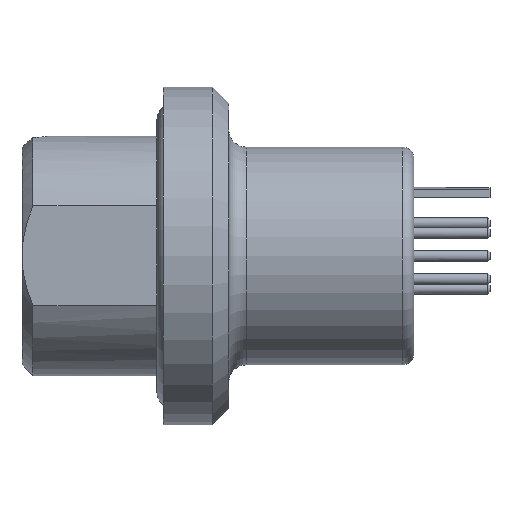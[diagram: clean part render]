
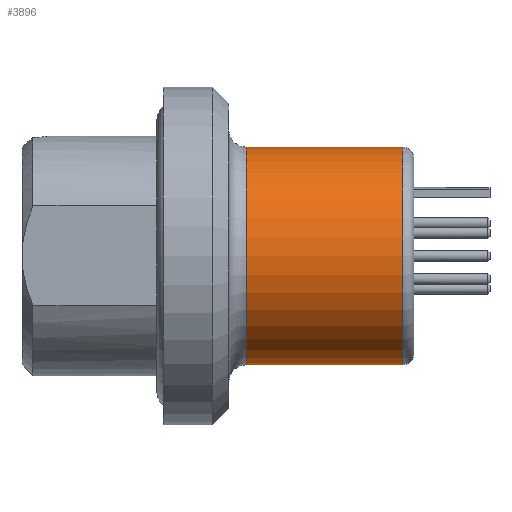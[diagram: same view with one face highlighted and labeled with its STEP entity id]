
A CAD part, top view. The second image highlights one B-rep face of the part: STEP entity #3896.
In plain terms, the highlighted cylindrical face has radius 5 mm (diameter 10 mm), a partial arc.
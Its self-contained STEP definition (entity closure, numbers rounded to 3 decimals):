
#563=CARTESIAN_POINT('',(5.5,0.,0.));
#564=DIRECTION('',(-1.,0.,0.));
#565=DIRECTION('',(0.,-1.,0.));
#566=AXIS2_PLACEMENT_3D('',#563,#564,#565);
#583=DIRECTION('',(-1.,0.,0.));
#584=VECTOR('',#583,7.2);
#585=CARTESIAN_POINT('',(5.5,5.,0.));
#586=LINE('',#585,#584);
#587=DIRECTION('',(-1.,0.,0.));
#588=VECTOR('',#587,7.2);
#589=CARTESIAN_POINT('',(5.5,-5.,0.));
#590=LINE('',#589,#588);
#591=CARTESIAN_POINT('',(-1.7,0.,0.));
#592=DIRECTION('',(1.,0.,0.));
#593=DIRECTION('',(0.,1.,0.));
#594=AXIS2_PLACEMENT_3D('',#591,#592,#593);
#2749=CARTESIAN_POINT('',(-1.7,5.,0.));
#2750=CARTESIAN_POINT('',(-1.7,-5.,0.));
#2751=VERTEX_POINT('',#2749);
#2752=VERTEX_POINT('',#2750);
#2753=CARTESIAN_POINT('',(5.5,-5.,0.));
#2754=CARTESIAN_POINT('',(5.5,5.,0.));
#2755=VERTEX_POINT('',#2753);
#2756=VERTEX_POINT('',#2754);
#3884=CARTESIAN_POINT('',(6.9,0.,0.));
#3885=DIRECTION('',(-1.,0.,0.));
#3886=DIRECTION('',(0.,-1.,0.));
#3887=AXIS2_PLACEMENT_3D('',#3884,#3885,#3886);
#3888=CYLINDRICAL_SURFACE('',#3887,5.);
#3889=ORIENTED_EDGE('',*,*,#3828,.F.);
#3890=ORIENTED_EDGE('',*,*,#3872,.T.);
#3892=ORIENTED_EDGE('',*,*,#3891,.F.);
#3893=ORIENTED_EDGE('',*,*,#3868,.F.);
#3894=EDGE_LOOP('',(#3889,#3890,#3892,#3893));
#3895=FACE_OUTER_BOUND('',#3894,.F.);
#567=CIRCLE('',#566,5.);
#595=CIRCLE('',#594,5.);
#3828=EDGE_CURVE('',#2755,#2756,#567,.T.);
#3868=EDGE_CURVE('',#2756,#2751,#586,.T.);
#3872=EDGE_CURVE('',#2755,#2752,#590,.T.);
#3891=EDGE_CURVE('',#2751,#2752,#595,.T.);
#3896=ADVANCED_FACE('',(#3895),#3888,.T.);
